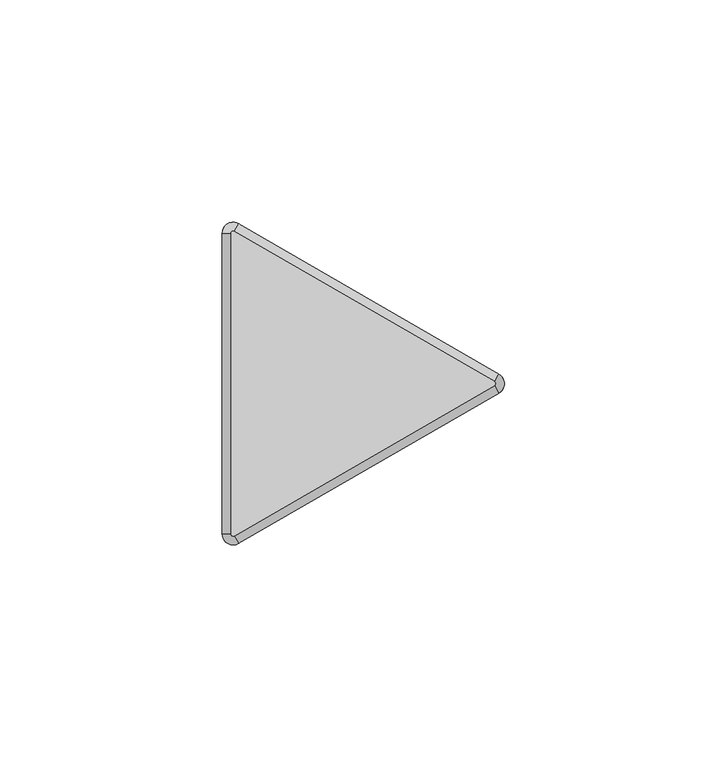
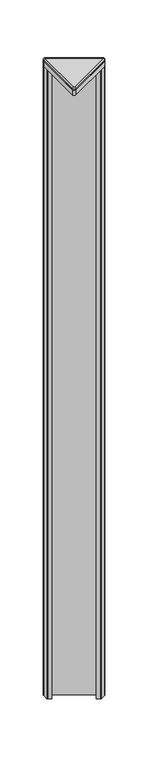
"""IFC4 building model written with IfcOpenShell, lengths in millimetres: furniture geometry, Steelcase - Answer Solution - Panel - 120deg Change-of-Height Trim - Thin : V Corner - 36H for 90H App."""

from ifc_helpers import new_model, si_unit, point, frame, frame_2d, origin, place, context, project, spatial, polyline, circle_curve, ellipse_curve, trimmed, segment, composite_curve, outline, extrude, source, transform, mapped, element, save
from ifc_brep_helpers import plane_surface, cylinder_surface, revolved_surface, advanced_brep


def furniture_f8d1742a(model_context):
    return source(origin(), model_context, "Body", "SolidModel", [
        advanced_brep(
        [(-10.518645, -37.3335529, 2290.4628978), (-14.2052101, -35.2051135, 2290.4628978), (-14.2052101, -35.2051135, 2289.5164663), (-10.518645, -37.3335529, 2289.5164663), (-11.46175, -35.7000471, 2292.35), (-12.319, -35.2051135, 2292.35), (-11.46175, -35.7000471, 2289.5164663), (-12.319, -35.2051135, 2289.5164663), (48.0429908, -3.5229767, 2289.5164663), (48.0429908, -3.5229767, 2290.4628978), (47.0998858, -1.8894709, 2292.35), (47.0998858, -1.8894709, 2289.5164663), (48.0429908, 0.733902, 2290.4628978), (48.0429908, 0.733902, 2289.5164663), (47.0998858, -0.8996038, 2292.35), (47.0998858, -0.8996038, 2289.5164663), (-10.518645, 34.5444782, 2289.5164663), (-14.2052101, 32.4160388, 2289.5164663), (-11.46175, 32.9109723, 2289.5164663), (-12.319, 32.4160388, 2289.5164663), (-10.518645, 34.5444782, 2290.4628978), (-11.46175, 32.9109723, 2292.35), (-14.2052101, 32.4160388, 2290.4628978), (-12.319, 32.4160388, 2292.35)],
        [
            (0, 1, circle_curve(frame((-11.7475, -35.2051135, 2290.4628978), z_axis=(0.0, 0.0, -1.0), x_axis=(-1.0, 0.0, 0.0)), 2.4577101)),
            (1, 2),
            (2, 3, circle_curve(frame((-11.7475, -35.2051135, 2289.5164663), z_axis=(0.0, 0.0, 1.0), x_axis=(-1.0, 0.0, 0.0)), 2.4577101)),
            (3, 0),
            (4, 5, circle_curve(frame((-11.7475, -35.2051135, 2292.35), z_axis=(0.0, 0.0, -1.0), x_axis=(-1.0, 0.0, 0.0)), 0.5715)),
            (5, 1, circle_curve(frame((-12.3181076, -35.2051135, 2290.4628978), z_axis=(0.0, -1.0, 0.0), x_axis=(1.0, 0.0, 0.0)), 1.8871024)),
            (0, 4, circle_curve(frame((-11.4621962, -35.6992743, 2290.4628978), z_axis=(-0.8660254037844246, -0.5000000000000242, 0.0), x_axis=(-0.5000000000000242, 0.8660254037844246, 0.0)), 1.8871024)),
            (6, 7, circle_curve(frame((-11.7475, -35.2051135, 2289.5164663), z_axis=(0.0, 0.0, -1.0), x_axis=(-1.0, 0.0, 0.0)), 0.5715)),
            (7, 5),
            (4, 6),
            (3, 8),
            (8, 9),
            (9, 0),
            (9, 10, circle_curve(frame((47.0994396, -1.8886981, 2290.4628978), z_axis=(-0.8660254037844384, -0.5000000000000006, 0.0), x_axis=(-0.5000000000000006, 0.8660254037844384, 0.0)), 1.8871024)),
            (10, 4),
            (10, 11),
            (11, 6),
            (12, 9, circle_curve(frame((46.8141358, -1.3945374, 2290.4628978), z_axis=(0.0, 0.0, -1.0), x_axis=(0.4999999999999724, -0.8660254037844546, 0.0)), 2.4577101)),
            (8, 13, circle_curve(frame((46.8141358, -1.3945374, 2289.5164663), z_axis=(0.0, 0.0, 1.0), x_axis=(0.4999999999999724, -0.8660254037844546, 0.0)), 2.4577101)),
            (13, 12),
            (14, 10, circle_curve(frame((46.8141358, -1.3945374, 2292.35), z_axis=(0.0, 0.0, -1.0), x_axis=(0.4999999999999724, -0.8660254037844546, 0.0)), 0.5715)),
            (12, 14, circle_curve(frame((47.0994396, -0.9003766, 2290.4628978), z_axis=(0.8660254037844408, -0.4999999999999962, 0.0), x_axis=(-0.4999999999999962, -0.8660254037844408, 0.0)), 1.8871024)),
            (15, 11, circle_curve(frame((46.8141358, -1.3945374, 2289.5164663), z_axis=(0.0, 0.0, -1.0), x_axis=(0.4999999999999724, -0.8660254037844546, 0.0)), 0.5715)),
            (14, 15),
            (16, 13),
            (2, 17),
            (17, 16, circle_curve(frame((-11.7475, 32.4160388, 2289.5164663), z_axis=(0.0, 0.0, -1.0), x_axis=(0.500000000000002, 0.8660254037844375, 0.0)), 2.4577101)),
            (15, 18),
            (18, 19, circle_curve(frame((-11.7475, 32.4160388, 2289.5164663), z_axis=(0.0, 0.0, 1.0), x_axis=(0.500000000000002, 0.8660254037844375, 0.0)), 0.5715)),
            (19, 7),
            (16, 20),
            (20, 12),
            (20, 21, circle_curve(frame((-11.4621962, 32.9101995, 2290.4628978), z_axis=(0.8660254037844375, -0.5000000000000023, 0.0), x_axis=(-0.5000000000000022, -0.8660254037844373, 0.0)), 1.8871024)),
            (21, 14),
            (21, 18),
            (22, 20, circle_curve(frame((-11.7475, 32.4160388, 2290.4628978), z_axis=(0.0, 0.0, -1.0), x_axis=(0.500000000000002, 0.8660254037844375, 0.0)), 2.4577101)),
            (17, 22),
            (23, 21, circle_curve(frame((-11.7475, 32.4160388, 2292.35), z_axis=(0.0, 0.0, -1.0), x_axis=(0.500000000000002, 0.8660254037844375, 0.0)), 0.5715)),
            (22, 23, circle_curve(frame((-12.3181076, 32.4160388, 2290.4628978), z_axis=(0.0, 1.0, 0.0), x_axis=(1.0, 0.0, 0.0)), 1.8871024)),
            (23, 19),
            (1, 22),
            (5, 23),
        ],
        [
            cylinder_surface(frame((-11.7475, -35.2051135, 0.0), z_axis=(0.0, 0.0, 1.0), x_axis=(-1.0, 0.0, 0.0)), 2.4577101),
            revolved_surface(trimmed(ellipse_curve(frame((-12.3181076, -35.2051135, 2290.4628978), z_axis=(0.0, 1.0, 0.0), x_axis=(1.0, 0.0, 0.0)), 1.8871024, 1.8871024), [point((-14.2052101, -35.2051135, 2290.4628978))], [point((-12.319, -35.2051135, 2292.35))], True, "CARTESIAN"), (-11.7475, -35.2051135, 0.0), (0.0, 0.0, 1.0)),
            revolved_surface(polyline([(-12.319, -35.2051135, 2292.35), (-12.319, -35.2051135, 2289.5164663)]), (-11.7475, -35.2051135, 0.0), (0.0, 0.0, 1.0)),
            plane_surface(frame((-10.518645, -37.3335529, 2289.5164663), z_axis=(0.5000000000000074, -0.8660254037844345, 0.0), x_axis=(0.8660254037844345, 0.5000000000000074, 0.0))),
            cylinder_surface(frame((-11.4621962, -35.6992743, 2290.4628978), z_axis=(-0.8660254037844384, -0.5000000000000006, 0.0), x_axis=(-0.5000000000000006, 0.8660254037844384, 0.0)), 1.8871024),
            plane_surface(frame((-11.46175, -35.7000471, 2292.35), z_axis=(-0.5000000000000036, 0.8660254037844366, 0.0), x_axis=(0.8660254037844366, 0.5000000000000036, 0.0))),
            cylinder_surface(frame((46.8141358, -1.3945374, 0.0), z_axis=(0.0, 0.0, 1.0), x_axis=(0.4999999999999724, -0.8660254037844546, 0.0)), 2.4577101),
            revolved_surface(trimmed(ellipse_curve(frame((47.0994396, -1.8886981, 2290.4628978), z_axis=(-0.8660254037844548, -0.499999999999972, 0.0), x_axis=(-0.499999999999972, 0.8660254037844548, 0.0)), 1.8871024, 1.8871024), [point((48.0429908, -3.5229767, 2290.4628978))], [point((47.0998858, -1.8894709, 2292.35))], True, "CARTESIAN"), (46.8141358, -1.3945374, 0.0), (0.0, 0.0, 1.0)),
            revolved_surface(polyline([(47.09988579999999, -1.8894709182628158, 2292.35), (47.09988579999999, -1.8894709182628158, 2289.5164663)]), (46.8141358, -1.3945374, 0.0), (0.0, 0.0, 1.0)),
            plane_surface(frame((47.0998858, -0.8996038, 2289.5164663), z_axis=(0.0, 0.0, -1.0000000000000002), x_axis=(-0.8660254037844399, 0.49999999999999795, 0.0))),
            plane_surface(frame((48.0429908, 0.733902, 2289.5164663), z_axis=(0.5000000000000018, 0.8660254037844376, 0.0), x_axis=(-0.8660254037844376, 0.5000000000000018, 0.0))),
            cylinder_surface(frame((47.0994396, -0.9003766, 2290.4628978), z_axis=(0.8660254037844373, -0.5000000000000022, 0.0), x_axis=(-0.5000000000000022, -0.8660254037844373, 0.0)), 1.8871024),
            plane_surface(frame((47.0998858, -0.8996038, 2292.35), z_axis=(-0.49999999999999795, -0.8660254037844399, 0.0), x_axis=(-0.8660254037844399, 0.49999999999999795, 0.0))),
            cylinder_surface(frame((-11.7475, 32.4160388, 0.0), z_axis=(0.0, 0.0, 1.0), x_axis=(0.500000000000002, 0.8660254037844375, 0.0)), 2.4577101),
            revolved_surface(trimmed(ellipse_curve(frame((-11.4621962, 32.9101995, 2290.4628978), z_axis=(0.866025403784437, -0.5000000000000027, 0.0), x_axis=(-0.5000000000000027, -0.866025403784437, 0.0)), 1.8871024, 1.8871024), [point((-10.518645, 34.5444782, 2290.4628978))], [point((-11.46175, 32.9109723, 2292.35))], True, "CARTESIAN"), (-11.7475, 32.4160388, 0.0), (0.0, 0.0, 1.0)),
            revolved_surface(polyline([(-11.461749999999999, 32.91097231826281, 2292.35), (-11.461749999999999, 32.91097231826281, 2289.5164663)]), (-11.7475, 32.4160388, 0.0), (0.0, 0.0, 1.0)),
            plane_surface(frame((-14.2052101, 32.4160388, 2289.5164663), z_axis=(-1.0, 0.0, 0.0), x_axis=(0.0, -1.0, 0.0))),
            cylinder_surface(frame((-12.3181076, 32.4160388, 2290.4628978), z_axis=(0.0, 1.0, 0.0), x_axis=(1.0, 0.0, 0.0)), 1.8871024),
            plane_surface(frame((-12.319, 32.4160388, 2292.35), z_axis=(1.0, 0.0, 0.0), x_axis=(0.0, -1.0, 0.0))),
        ],
        [
            (0, [[1, 2, 3, 4]]),
            (1, [[5, 6, -1, 7]]),
            (2, [[8, 9, -5, 10]]),
            (3, [[-4, 11, 12, 13]]),
            (4, [[-7, -13, 14, 15]]),
            (5, [[-10, -15, 16, 17]]),
            (6, [[18, -12, 19, 20]]),
            (7, [[21, -14, -18, 22]]),
            (8, [[23, -16, -21, 24]]),
            (9, [[25, -19, -11, -3, 26, 27], [-8, -17, -23, 28, 29, 30]]),
            (10, [[-20, -25, 31, 32]]),
            (11, [[-22, -32, 33, 34]]),
            (12, [[-24, -34, 35, -28]]),
            (13, [[36, -31, -27, 37]]),
            (14, [[38, -33, -36, 39]]),
            (15, [[-29, -35, -38, 40]]),
            (16, [[-37, -26, -2, 41]]),
            (17, [[-39, -41, -6, 42]]),
            (18, [[-40, -42, -9, -30]]),
        ],
    ),
        extrude(outline(composite_curve([segment(trimmed(circle_curve(frame_2d((46.8261011, -1.3945374)), 0.5655173), [point((47.1088598, -0.904785))], [point((47.1088598, -1.8842897))], False, "CARTESIAN"), True, "CONTINUOUS"), segment(polyline([(47.1088598, -1.8842897), (-11.4505119, -35.6935587)]), True, "CONTINUOUS"), segment(trimmed(circle_curve(frame_2d((-11.7400079, -35.1921369)), 0.5789921), [point((-11.4505119, -35.6935587))], [point((-12.319, -35.1921369))], False, "CARTESIAN"), True, "CONTINUOUS"), segment(polyline([(-12.319, -35.1921369), (-12.319, 32.3985888)]), True, "CONTINUOUS"), segment(trimmed(circle_curve(frame_2d((-11.7374252, 32.3985888)), 0.5815748), [point((-12.319, 32.3985888))], [point((-11.4466378, 32.9022473))], False, "CARTESIAN"), True, "CONTINUOUS"), segment(polyline([(-11.4466378, 32.9022473), (47.1088598, -0.904785)]), True, "CONTINUOUS")], self_intersect=False)), frame((0.0, 0.0, 2289.5164663), z_axis=(0.0, 0.0, 1.0), x_axis=(1.0, 0.0, 0.0)), (0.0, 0.0, 1.0), 2.8335337),
        extrude(outline(composite_curve([segment(trimmed(circle_curve(frame_2d((47.9608454, -1.3945374)), 1.2935425), [point((48.6076166, -0.2742967))], [point((48.6076166, -2.514778))], False, "CARTESIAN"), True, "CONTINUOUS"), segment(polyline([(48.6076166, -2.514778), (41.722656, -6.4898119)]), True, "CONTINUOUS"), segment(trimmed(circle_curve(frame_2d((41.0991304, -5.4098338)), 1.2470513), [point((41.722656, -6.4898119))], [point((40.4756048, -6.4898119))], False, "CARTESIAN"), True, "CONTINUOUS"), segment(polyline([(40.4756048, -6.4898119), (36.3239304, -4.0928416), (36.7811304, -3.300948), (41.0991304, -5.7939464), (47.3502407, -2.1848662)]), True, "CONTINUOUS"), segment(trimmed(circle_curve(frame_2d((46.8939441, -1.3945374)), 0.9125932), [point((47.3502407, -2.1848662))], [point((47.3502407, -0.6042085))], True, "CARTESIAN"), True, "CONTINUOUS"), segment(polyline([(47.3502407, -0.6042085), (-11.3312768, 33.2755814)]), True, "CONTINUOUS"), segment(trimmed(circle_curve(frame_2d((-11.7875179, 32.4853487)), 0.9124821), [point((-11.3312768, 33.2755814))], [point((-12.7, 32.4853487))], True, "CARTESIAN"), True, "CONTINUOUS"), segment(polyline([(-12.7, 32.4853487), (-12.7, 25.266996), (-8.382, 22.7739975), (-8.8392, 21.9821039), (-12.9583282, 24.3602837)]), True, "CONTINUOUS"), segment(trimmed(circle_curve(frame_2d((-12.3022565, 25.4966333)), 1.3121435), [point((-12.9583282, 24.3602837))], [point((-13.6144, 25.4966333))], False, "CARTESIAN"), True, "CONTINUOUS"), segment(polyline([(-13.6144, 25.4966333), (-13.6144, 33.3957138)]), True, "CONTINUOUS"), segment(trimmed(circle_curve(frame_2d((-12.3131174, 33.3957138)), 1.3012826), [point((-13.6144, 33.3957138))], [point((-11.6624761, 34.5226576))], False, "CARTESIAN"), True, "CONTINUOUS"), segment(polyline([(-11.6624761, 34.5226576), (48.6076166, -0.2742967)]), True, "CONTINUOUS")], self_intersect=False)), frame((0.0, 0.0, 1377.95), z_axis=(0.0, 0.0, 1.0), x_axis=(1.0, 0.0, 0.0)), (0.0, 0.0, 1.0), 904.24),
        extrude(outline(composite_curve([segment(trimmed(circle_curve(frame_2d((46.8140443, -1.3945374)), 2.4577558), [point((48.0429222, 0.7339416))], [point((48.0429222, -3.5230163))], False, "CARTESIAN"), True, "CONTINUOUS"), segment(polyline([(48.0429222, -3.5230163), (-10.518058, -37.333214)]), True, "CONTINUOUS"), segment(trimmed(circle_curve(frame_2d((-11.7471087, -35.2044357)), 2.4581014), [point((-10.518058, -37.333214))], [point((-14.2052101, -35.2044357))], False, "CARTESIAN"), True, "CONTINUOUS"), segment(polyline([(-14.2052101, -35.2044357), (-14.2052101, 32.4160388)]), True, "CONTINUOUS"), segment(trimmed(circle_curve(frame_2d((-11.7475, 32.4160388)), 2.4577101), [point((-14.2052101, 32.4160388))], [point((-10.518645, 34.5444782))], False, "CARTESIAN"), True, "CONTINUOUS"), segment(polyline([(-10.518645, 34.5444782), (48.0429222, 0.7339416)]), True, "CONTINUOUS")], self_intersect=False)), frame((0.0, 0.0, 2282.19), z_axis=(0.0, 0.0, 1.0), x_axis=(1.0, 0.0, 0.0)), (0.0, 0.0, 1.0), 7.3264663),
    ])


if __name__ == "__main__":
    model = new_model("IFC4")
    model_context = context("Model", 3, world=origin())
    ifc_project = project(units=[si_unit("LENGTHUNIT", "METRE", prefix="MILLI")], contexts=[model_context])
    site = spatial("IfcSite", under=ifc_project)
    building = spatial("IfcBuilding", under=site)
    placement = place(None, origin())
    furniture_shape = furniture_f8d1742a(model_context)
    element("IfcFurniture", 1, ObjectType="Steelcase - Answer Solution - Panel - 120deg Change-of-Height Trim - Thin : V Corner - 36H for 90H App", at=placement, inside=building, context=model_context, shape_type="MappedRepresentation", body=[
        mapped(furniture_shape, transform((0.0, 0.0, 0.0), x_axis=(1.0, 0.0, 0.0), y_axis=(0.0, 1.0, 0.0), z_axis=(0.0, 0.0, 1.0))),
    ])
    save(model, "model.ifc")
